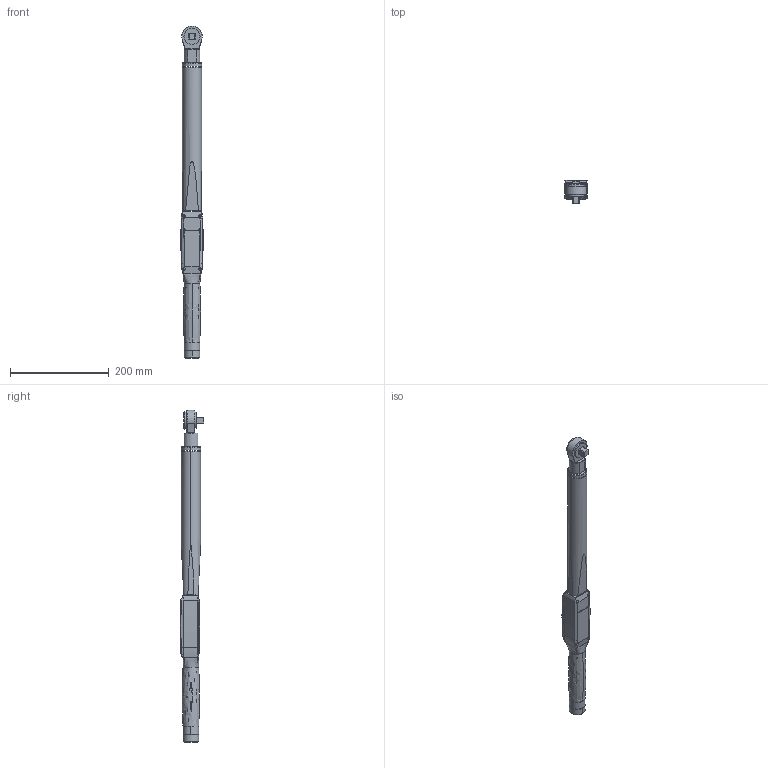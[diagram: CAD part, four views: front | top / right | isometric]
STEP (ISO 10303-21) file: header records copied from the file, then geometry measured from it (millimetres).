
FILE_DESCRIPTION((''),'2;1');
FILE_NAME('6159352020_DIM','2021-06-28T09:13:44',('S00000450'),(''),'CREO PARAMETRIC BY PTC INC, 2021072','CREO PARAMETRIC BY PTC INC, 2021072','');
FILE_SCHEMA(('AP242_MANAGED_MODEL_BASED_3D_ENGINEERING_MIM_LF { 1 0 10303 442 1 1 4 }'));
Length unit declared in the file: millimetre
Products named in the file (1): 6159352020_DIM
Bounding box: 45.16 x 48.45 x 673.68 mm (x, y, z)
Surface area: 92271.9 mm2 (no closed solid volume)
Topology: 0 solids, 69 shells, 251 faces, 832 edges, 629 vertices
Faces by surface type: plane 84, bspline 74, cylinder 55, cone 24, extrusion 8, torus 4, sphere 2
Entity records: 17324 total; most frequent: CARTESIAN_POINT 9223, ORIENTED_EDGE 1167, DIRECTION 1125, EDGE_CURVE 832, VERTEX_POINT 629, AXIS2_PLACEMENT_3D 453, B_SPLINE_CURVE_WITH_KNOTS 345, CIRCLE 284
